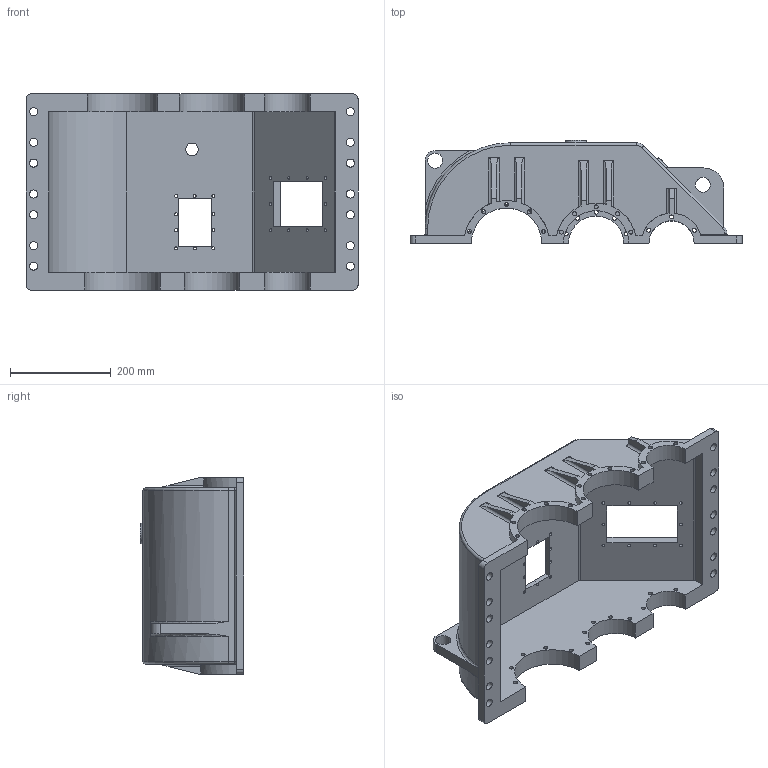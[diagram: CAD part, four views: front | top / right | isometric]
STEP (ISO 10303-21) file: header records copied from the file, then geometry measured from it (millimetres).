
FILE_DESCRIPTION(/* description */ (''),/* implementation_level */ '2;1');
FILE_NAME(/* name */ 'G:\YandexDisk\Работа\Inventor\Универ\ОАП\Лабораторные работы\ЛР6 Создание сборок\Редуктор\stp\Крышка корпуса.stp',/* time_stamp */ '2023-11-17T06:33:53+03:00',/* author */ ('34740'),/* organization */ (''),/* preprocessor_version */ 'ST-DEVELOPER v18.1',/* originating_system */ 'Autodesk Inventor 2022',/* authorisation */ '');
FILE_SCHEMA (('AUTOMOTIVE_DESIGN { 1 0 10303 214 3 1 1 }'));
Length unit declared in the file: millimetre
Products named in the file (1): Крышка корпуса
Bounding box: 660 x 205 x 390 mm (x, y, z)
Volume: 7047971.6 mm3; surface area: 1030194.1 mm2
Topology: 1 solids, 1 shells, 236 faces, 673 edges, 442 vertices
Faces by surface type: cylinder 133, plane 90, torus 13
Full cylindrical faces by diameter (mm): 6 x20, 8 x26, 16 x14, 25 x1, 30 x2
Entity records: 8263 total; most frequent: CARTESIAN_POINT 1600, DIRECTION 1392, ORIENTED_EDGE 1346, EDGE_CURVE 673, AXIS2_PLACEMENT_3D 510, VERTEX_POINT 442, LINE 372, VECTOR 372
